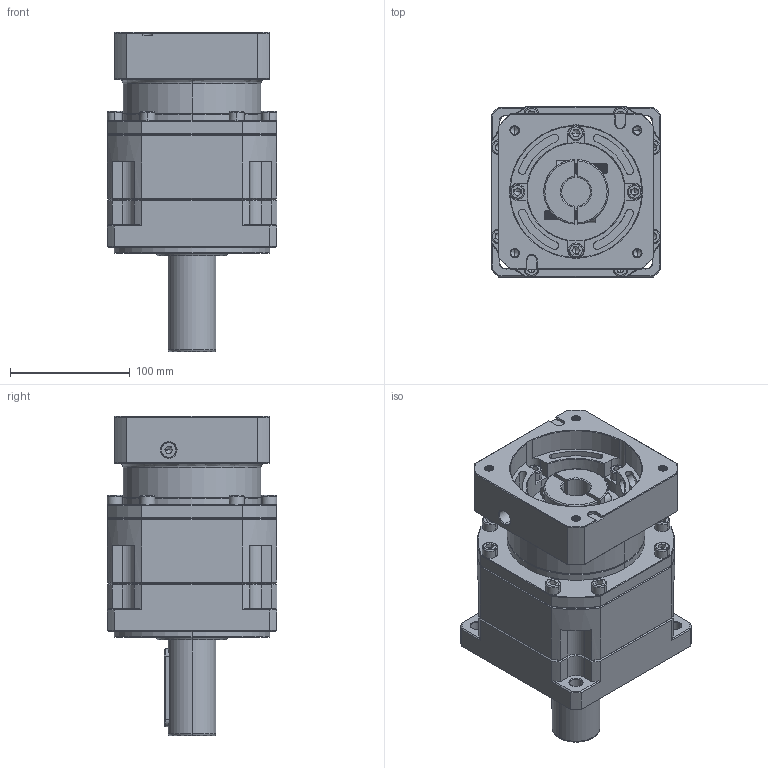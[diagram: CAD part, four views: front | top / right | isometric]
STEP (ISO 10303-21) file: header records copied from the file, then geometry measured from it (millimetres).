
FILE_DESCRIPTION (( 'STEP AP214' ), '1' );
FILE_NAME ('ZB142A-D40-L1-P2-24-110-145-M8.step', '2023-09-01T11:41:08', ( '' ), ( '' ), 'SwSTEP 2.0', 'SolidWorks 2016', '' );
FILE_SCHEMA (( 'AUTOMOTIVE_DESIGN' ));
Length unit declared in the file: millimetre
Products named in the file (1): ZB142A-D40-L1-P2-24-110-145-M8
Bounding box: 142 x 142 x 266.8 mm (x, y, z)
Volume: 2770402.4 mm3; surface area: 286068.8 mm2
Topology: 7 solids, 7 shells, 2605 faces, 6892 edges, 4401 vertices
Faces by surface type: plane 1233, cylinder 518, bspline 410, cone 387, torus 57
Entity records: 144950 total; most frequent: CARTESIAN_POINT 55131, ORIENTED_EDGE 13676, DIRECTION 11174, EDGE_CURVE 6838, VERTEX_POINT 4401, LINE 4302, VECTOR 4302, AXIS2_PLACEMENT_3D 3436
